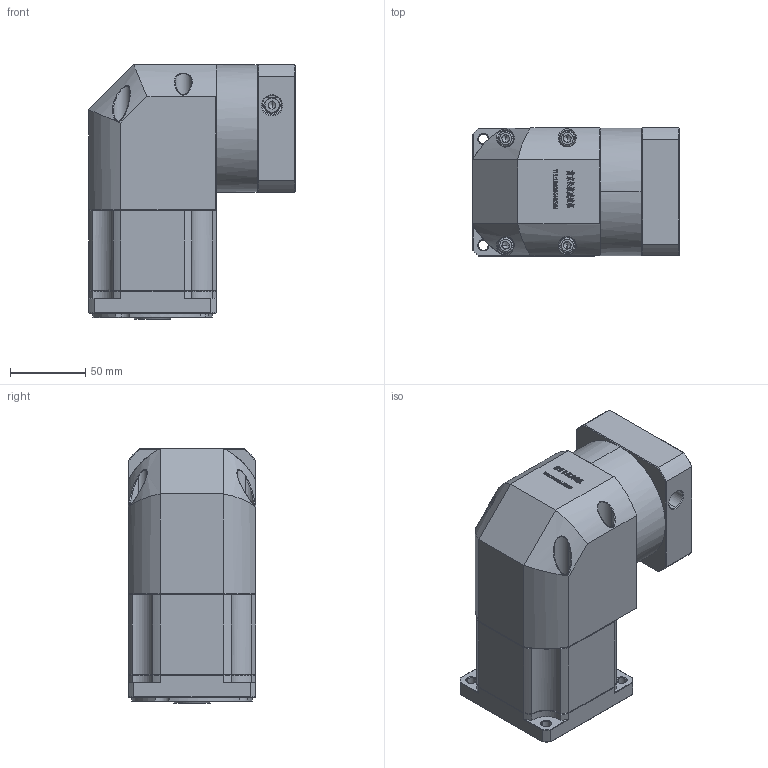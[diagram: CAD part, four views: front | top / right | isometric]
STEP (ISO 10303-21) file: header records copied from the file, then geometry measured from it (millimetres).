
FILE_DESCRIPTION (( 'STEP AP214' ), '1' );
FILE_NAME ('ZBR90-K15-L2-19-70-90-M6.STEP', '2022-05-07T14:50:38', ( '' ), ( 'Microsoft' ), 'SwSTEP 2.0', 'SolidWorks 2016', '' );
FILE_SCHEMA (( 'AUTOMOTIVE_DESIGN' ));
Length unit declared in the file: millimetre
Products named in the file (1): ZBR90-K15-L2-19-70-90-M6
Bounding box: 137.6 x 85 x 169.5 mm (x, y, z)
Volume: 1290514.2 mm3; surface area: 134312.7 mm2
Topology: 5 solids, 5 shells, 2944 faces, 7800 edges, 4989 vertices
Faces by surface type: plane 1570, bspline 596, cylinder 409, cone 345, torus 24
Entity records: 157499 total; most frequent: CARTESIAN_POINT 56755, ORIENTED_EDGE 15528, DIRECTION 11869, EDGE_CURVE 7764, VECTOR 5225, LINE 5225, VERTEX_POINT 4989, AXIS2_PLACEMENT_3D 3322
